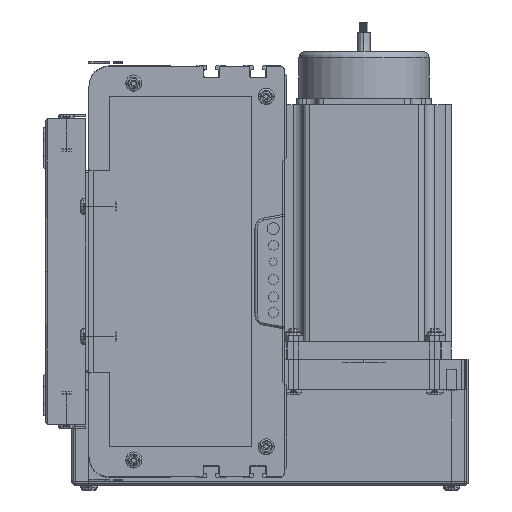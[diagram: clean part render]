
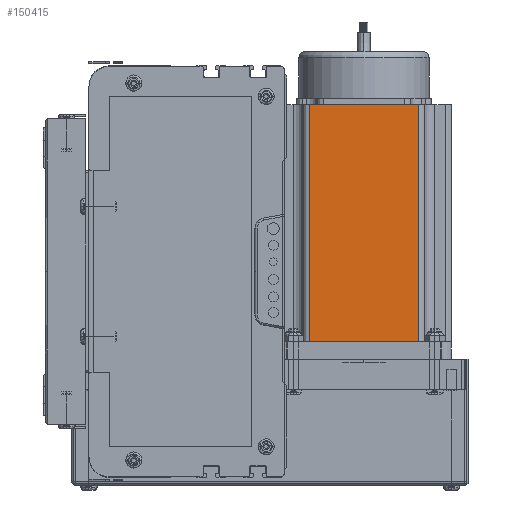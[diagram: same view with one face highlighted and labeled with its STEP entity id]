
A CAD part, left-side view. The second image highlights one B-rep face of the part: STEP entity #150415.
In plain terms, the highlighted planar face has unit normal (-1, 0, 0) as drawn and (0, -1, 0) by its records, which use the part's own axes.
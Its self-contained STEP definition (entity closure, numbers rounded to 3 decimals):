
#93391 = CARTESIAN_POINT ( 'NONE',  ( 69.74, 0., 116.5 ) ) ;
#93399 = CARTESIAN_POINT ( 'NONE',  ( 16.16, 0., 0. ) ) ;
#94208 = CARTESIAN_POINT ( 'NONE',  ( 69.74, 0., 0. ) ) ;
#94263 = CARTESIAN_POINT ( 'NONE',  ( 16.16, 0., 116.5 ) ) ;
#94356 = DIRECTION ( 'NONE',  ( 0., 0., 1. ) ) ;
#94358 = VECTOR ( 'NONE', #94356, 1000. ) ;
#94359 = CARTESIAN_POINT ( 'NONE',  ( 69.74, 0., 116.5 ) ) ;
#94363 = LINE ( 'NONE', #94359, #94358 ) ;
#94616 = LINE ( 'NONE', #94708, #94707 ) ;
#94706 = DIRECTION ( 'NONE',  ( 1., 0., 0. ) ) ;
#94707 = VECTOR ( 'NONE', #94706, 1000. ) ;
#94708 = CARTESIAN_POINT ( 'NONE',  ( 0., 0., 116.5 ) ) ;
#95806 = DIRECTION ( 'NONE',  ( 1., 0., 0. ) ) ;
#95807 = VECTOR ( 'NONE', #95806, 1000. ) ;
#95823 = CARTESIAN_POINT ( 'NONE',  ( 0., 0., 0. ) ) ;
#95825 = LINE ( 'NONE', #95823, #95807 ) ;
#100572 = DIRECTION ( 'NONE',  ( 0., 1., 0. ) ) ;
#100573 = CARTESIAN_POINT ( 'NONE',  ( 0., 0., 116.5 ) ) ;
#100579 = FACE_OUTER_BOUND ( 'NONE', #150322, .T. ) ;
#100587 = PLANE ( 'NONE',  #100674 ) ;
#100655 = DIRECTION ( 'NONE',  ( 0., 0., -1. ) ) ;
#100656 = VECTOR ( 'NONE', #100655, 1000. ) ;
#100662 = CARTESIAN_POINT ( 'NONE',  ( 16.16, 0., 116.5 ) ) ;
#100663 = LINE ( 'NONE', #100662, #100656 ) ;
#100665 = DIRECTION ( 'NONE',  ( 0., 0., 1. ) ) ;
#100674 = AXIS2_PLACEMENT_3D ( 'NONE', #100573, #100572, #100665 ) ;
#149939 = ORIENTED_EDGE ( 'NONE', *, *, #150395, .T. ) ;
#150011 = VERTEX_POINT ( 'NONE', #93399 ) ;
#150033 = VERTEX_POINT ( 'NONE', #93391 ) ;
#150168 = VERTEX_POINT ( 'NONE', #94263 ) ;
#150194 = VERTEX_POINT ( 'NONE', #94208 ) ;
#150196 = EDGE_CURVE ( 'NONE', #150194, #150033, #94363, .T. ) ;
#150198 = ORIENTED_EDGE ( 'NONE', *, *, #150196, .T. ) ;
#150253 = ORIENTED_EDGE ( 'NONE', *, *, #150254, .F. ) ;
#150254 = EDGE_CURVE ( 'NONE', #150168, #150033, #94616, .T. ) ;
#150322 = EDGE_LOOP ( 'NONE', ( #149939, #150198, #150253, #150350 ) ) ;
#150350 = ORIENTED_EDGE ( 'NONE', *, *, #150418, .T. ) ;
#150395 = EDGE_CURVE ( 'NONE', #150011, #150194, #95825, .T. ) ;
#150415 = ADVANCED_FACE ( 'NONE', ( #100579 ), #100587, .F. ) ;
#150418 = EDGE_CURVE ( 'NONE', #150168, #150011, #100663, .T. ) ;
